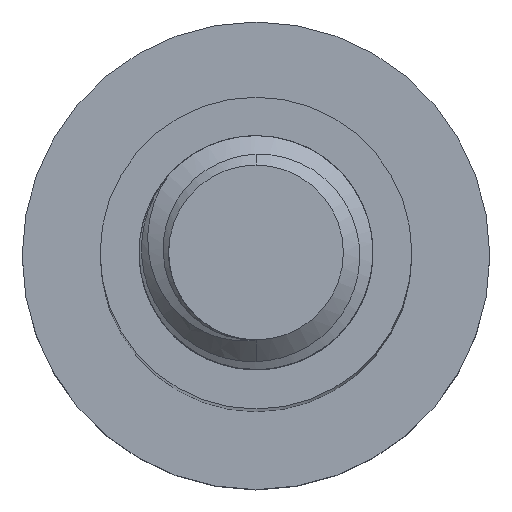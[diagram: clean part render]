
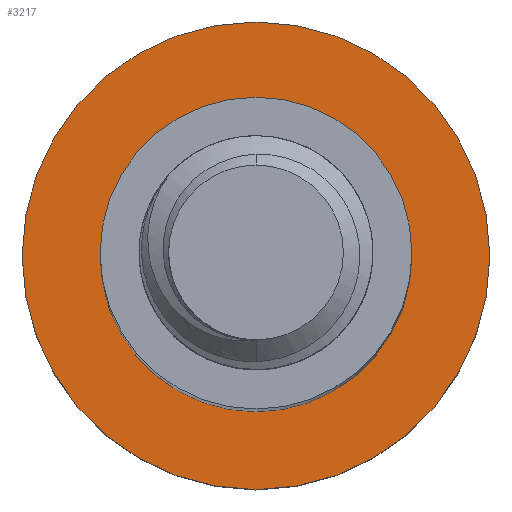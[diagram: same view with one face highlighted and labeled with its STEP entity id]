
A CAD part, top view. The second image highlights one B-rep face of the part: STEP entity #3217.
In plain terms, the highlighted planar face has unit normal (0, 0, 1).
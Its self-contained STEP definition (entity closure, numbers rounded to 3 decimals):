
#6 = CARTESIAN_POINT ( 'NONE',  ( 0., 0., -80. ) ) ;
#104 = CARTESIAN_POINT ( 'NONE',  ( 0., 0., -80. ) ) ;
#121 = AXIS2_PLACEMENT_3D ( 'NONE', #1873, #1053, #1475 ) ;
#194 = ORIENTED_EDGE ( 'NONE', *, *, #2915, .F. ) ;
#417 = DIRECTION ( 'NONE',  ( -1., 0., 0. ) ) ;
#460 = CIRCLE ( 'NONE', #4582, 12. ) ;
#595 = CARTESIAN_POINT ( 'NONE',  ( 0., 0., -80. ) ) ;
#738 = CARTESIAN_POINT ( 'NONE',  ( 12., 0., -80. ) ) ;
#806 = EDGE_LOOP ( 'NONE', ( #1151, #4056 ) ) ;
#811 = FACE_OUTER_BOUND ( 'NONE', #4662, .T. ) ;
#841 = DIRECTION ( 'NONE',  ( 0., 0., -1. ) ) ;
#1053 = DIRECTION ( 'NONE',  ( 0., 0., -1. ) ) ;
#1093 = ORIENTED_EDGE ( 'NONE', *, *, #4097, .F. ) ;
#1120 = VERTEX_POINT ( 'NONE', #4407 ) ;
#1151 = ORIENTED_EDGE ( 'NONE', *, *, #1993, .T. ) ;
#1321 = DIRECTION ( 'NONE',  ( -1., 0., 0. ) ) ;
#1475 = DIRECTION ( 'NONE',  ( -1., 0., 0. ) ) ;
#1730 = DIRECTION ( 'NONE',  ( -1., 0., 0. ) ) ;
#1873 = CARTESIAN_POINT ( 'NONE',  ( 0., 0., -80. ) ) ;
#1915 = AXIS2_PLACEMENT_3D ( 'NONE', #104, #841, #1321 ) ;
#1976 = CIRCLE ( 'NONE', #121, 8. ) ;
#1993 = EDGE_CURVE ( 'NONE', #2692, #1120, #1976, .T. ) ;
#2000 = CARTESIAN_POINT ( 'NONE',  ( 0., 0., -80. ) ) ;
#2600 = CARTESIAN_POINT ( 'NONE',  ( -8., 0., -80. ) ) ;
#2651 = AXIS2_PLACEMENT_3D ( 'NONE', #595, #5009, #1730 ) ;
#2692 = VERTEX_POINT ( 'NONE', #2600 ) ;
#2744 = DIRECTION ( 'NONE',  ( -1., 0., 0. ) ) ;
#2915 = EDGE_CURVE ( 'NONE', #4371, #3010, #460, .T. ) ;
#3010 = VERTEX_POINT ( 'NONE', #738 ) ;
#3217 = ADVANCED_FACE ( 'NONE', ( #4404, #811 ), #3812, .F. ) ;
#3238 = DIRECTION ( 'NONE',  ( 0., 0., -1. ) ) ;
#3250 = DIRECTION ( 'NONE',  ( 0., 0., -1. ) ) ;
#3580 = CIRCLE ( 'NONE', #1915, 12. ) ;
#3812 = PLANE ( 'NONE',  #2651 ) ;
#4056 = ORIENTED_EDGE ( 'NONE', *, *, #5126, .T. ) ;
#4097 = EDGE_CURVE ( 'NONE', #3010, #4371, #3580, .T. ) ;
#4163 = AXIS2_PLACEMENT_3D ( 'NONE', #6, #3250, #2744 ) ;
#4371 = VERTEX_POINT ( 'NONE', #4400 ) ;
#4400 = CARTESIAN_POINT ( 'NONE',  ( -12., 0., -80. ) ) ;
#4404 = FACE_BOUND ( 'NONE', #806, .T. ) ;
#4407 = CARTESIAN_POINT ( 'NONE',  ( 8., 0., -80. ) ) ;
#4582 = AXIS2_PLACEMENT_3D ( 'NONE', #2000, #3238, #417 ) ;
#4662 = EDGE_LOOP ( 'NONE', ( #1093, #194 ) ) ;
#5002 = CIRCLE ( 'NONE', #4163, 8. ) ;
#5009 = DIRECTION ( 'NONE',  ( 0., 0., -1. ) ) ;
#5126 = EDGE_CURVE ( 'NONE', #1120, #2692, #5002, .T. ) ;
